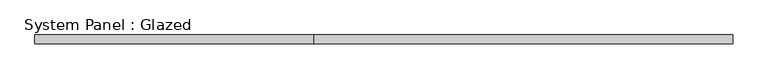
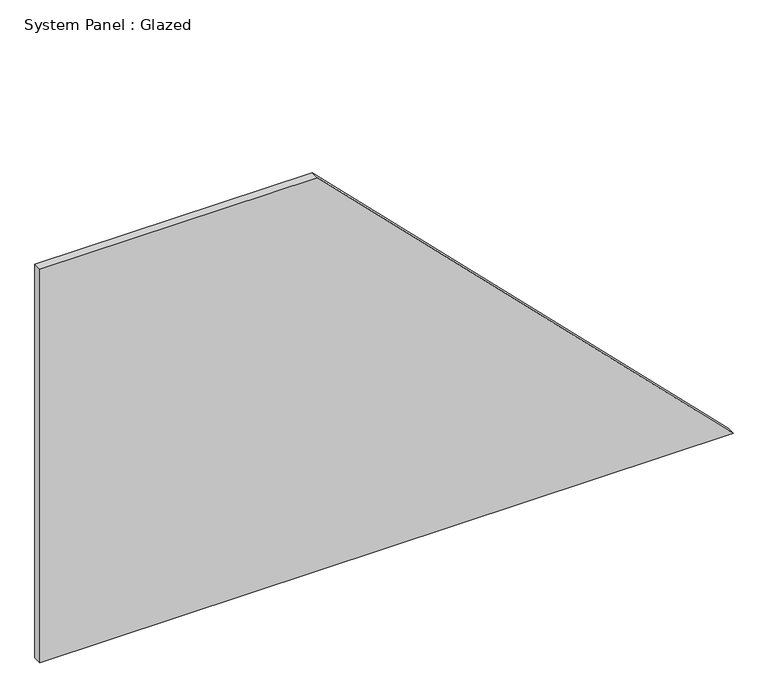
"""IFC4 building model written with IfcOpenShell, lengths in millimetres: plate geometry, System Panel : Glazed."""

import ifcopenshell
import ifcopenshell.guid

model = None  # the IFC model being written
_history = None  # IfcOwnerHistory: only IFC2X3 demands one
_inside = {}  # id of a spatial element -> (the spatial element, [elements in it])
_under = {}  # id of a project, library or spatial element -> (it, [spatial elements below it])
_declared = {}  # id of a project -> (the project, [libraries it declares])
_typed = {}  # id of a type object -> (the type object, [elements of that type])
_made_of = {}  # id of a material, layer set ... -> (it, [elements and type objects made of it])


def new_model(schema):
    """Start an empty IFC model of exactly this schema.

    Asked for "IFC4X3", IfcOpenShell would pick the latest addendum, in which some entities
    have other attributes; the version numbers below select the first issue.
    IFC2X3 requires an IfcOwnerHistory on every rooted entity: one is made here for all.
    """
    global model, _history
    if schema == "IFC4X3":
        model = ifcopenshell.file(schema_version=(4, 3, 0, 0))
    else:
        model = ifcopenshell.file(schema=schema)
    _inside.clear()
    _under.clear()
    _declared.clear()
    _typed.clear()
    _made_of.clear()
    _history = None
    if model.schema == "IFC2X3":
        org = make("IfcOrganization", Name="unknown")
        user = make(
            "IfcPersonAndOrganization",
            ThePerson=make("IfcPerson", FamilyName="unknown"),
            TheOrganization=org,
        )
        app = make(
            "IfcApplication",
            ApplicationDeveloper=org,
            Version="unknown",
            ApplicationFullName="unknown",
            ApplicationIdentifier="unknown",
        )
        _history = make(
            "IfcOwnerHistory",
            OwningUser=user,
            OwningApplication=app,
            ChangeAction="ADDED",
            CreationDate=0,
        )
    return model


def make(cls, **values):
    """One entity of the class cls with the attributes given. An attribute that is None is left unset."""
    return model.create_entity(
        cls, **{name: value for name, value in values.items() if value is not None}
    )


def rooted(cls, **values):
    """An entity with a GlobalId (a new one), such as an element, a storey or a relation."""
    return make(cls, GlobalId=ifcopenshell.guid.new(), OwnerHistory=_history, **values)


def si_unit(unit_type, name, prefix=None):
    """IfcSIUnit, for example si_unit("LENGTHUNIT", "METRE", prefix="MILLI")."""
    return make("IfcSIUnit", UnitType=unit_type, Prefix=prefix, Name=name)


def assignment(units):
    """IfcUnitAssignment: the units of a project."""
    return None if units is None else make("IfcUnitAssignment", Units=units)


def point(xyz):
    """IfcCartesianPoint."""
    return None if xyz is None else make("IfcCartesianPoint", Coordinates=xyz)


def direction(xyz):
    """IfcDirection."""
    return None if xyz is None else make("IfcDirection", DirectionRatios=xyz)


def frame(location, z_axis=None, x_axis=None):
    """IfcAxis2Placement3D, a coordinate frame: its origin and axes. An axis left out is left unset."""
    return make(
        "IfcAxis2Placement3D",
        Location=point(location),
        Axis=direction(z_axis),
        RefDirection=direction(x_axis),
    )


def origin():
    """The frame at (0, 0, 0) with its axes left unset."""
    return frame((0.0, 0.0, 0.0))


def place(relative_to, where):
    """IfcLocalPlacement: puts the frame where relative to a parent placement (None: the world)."""
    return make(
        "IfcLocalPlacement", PlacementRelTo=relative_to, RelativePlacement=where
    )


def context(
    kind, dimensions, precision=None, world=None, true_north=None, identifier=None
):
    """IfcGeometricRepresentationContext, for example the 3D "Model" context."""
    return make(
        "IfcGeometricRepresentationContext",
        ContextIdentifier=identifier,
        ContextType=kind,
        CoordinateSpaceDimension=dimensions,
        Precision=precision,
        WorldCoordinateSystem=world,
        TrueNorth=true_north,
    )


def project(units=None, contexts=None):
    """IfcProject with its units and contexts."""
    return rooted(
        "IfcProject",
        Name="project",
        RepresentationContexts=contexts,
        UnitsInContext=assignment(units),
    )


def spatial(cls, under=None, at=None, **own):
    """A site, building, storey or space (cls), placed at a placement, below another one or the project."""
    s = rooted(cls, ObjectPlacement=at, **own)
    if under is not None:
        _under.setdefault(under.id(), (under, []))[1].append(s)
    return s


def polyline(points):
    """IfcPolyline through the points."""
    return make("IfcPolyline", Points=[point(p) for p in points])


def outline(outer, holes=None, kind="AREA"):
    """IfcArbitraryClosedProfileDef: a profile drawn as a closed curve; with holes, ...WithVoids."""
    if holes is None:
        return make("IfcArbitraryClosedProfileDef", ProfileType=kind, OuterCurve=outer)
    return make(
        "IfcArbitraryProfileDefWithVoids",
        ProfileType=kind,
        OuterCurve=outer,
        InnerCurves=holes,
    )


def extrude(swept, where, along, depth):
    """IfcExtrudedAreaSolid: the profile swept, set in the frame where, extruded along a direction by depth."""
    return make(
        "IfcExtrudedAreaSolid",
        SweptArea=swept,
        Position=where,
        ExtrudedDirection=direction(along),
        Depth=depth,
    )


def shape(context_of_items, identifier, shape_type, items):
    """IfcShapeRepresentation: the items that make up one representation, for example the "Body"."""
    return make(
        "IfcShapeRepresentation",
        ContextOfItems=context_of_items,
        RepresentationIdentifier=identifier,
        RepresentationType=shape_type,
        Items=items,
    )


def source(mapping_origin, context_of_items, identifier, shape_type, items):
    """IfcRepresentationMap: a shape defined once, which mapped items show again and again."""
    return make(
        "IfcRepresentationMap",
        MappingOrigin=mapping_origin,
        MappedRepresentation=shape(context_of_items, identifier, shape_type, items),
    )


def transform(
    local_origin,
    x_axis=None,
    y_axis=None,
    z_axis=None,
    scale=None,
    scale2=None,
    scale3=None,
    uniform=True,
):
    """IfcCartesianTransformationOperator3D, or its non-uniform kind. x_axis, y_axis, z_axis: its Axis1, 2, 3."""
    if uniform:
        return make(
            "IfcCartesianTransformationOperator3D",
            Axis1=direction(x_axis),
            Axis2=direction(y_axis),
            LocalOrigin=point(local_origin),
            Scale=scale,
            Axis3=direction(z_axis),
        )
    return make(
        "IfcCartesianTransformationOperator3DnonUniform",
        Axis1=direction(x_axis),
        Axis2=direction(y_axis),
        LocalOrigin=point(local_origin),
        Scale=scale,
        Axis3=direction(z_axis),
        Scale2=scale2,
        Scale3=scale3,
    )


def mapped(mapping_source, mapping_target):
    """IfcMappedItem: shows the shape of a source again, moved by a transform."""
    return make(
        "IfcMappedItem", MappingSource=mapping_source, MappingTarget=mapping_target
    )


def made_of(thing, what):
    """Note that an element or type object is made of a material, layer set ...; save() writes the relation."""
    if what is not None:
        _made_of.setdefault(what.id(), (what, []))[1].append(thing)
    return thing


def element(
    cls,
    number,
    at=None,
    inside=None,
    cuts=None,
    type_object=None,
    material=None,
    context=None,
    identifier="Body",
    shape_type=None,
    held_by="IfcProductDefinitionShape",
    body=None,
    shapes=None,
    **own,
):
    """One element of the class cls, such as IfcWall. Its Tag is "e" and its number.

    at: its placement. inside: the storey or other place that contains it. cuts: it is an
    opening in that element (IfcRelVoidsElement). A single representation is given by context,
    identifier, shape_type and body (its items); several are given by shapes. held_by: the class
    of the entity that holds the representations. save() writes the other relations.
    """
    e = rooted(cls, Tag="e%d" % number, ObjectPlacement=at, **own)
    if body is not None:
        shapes = [shape(context, identifier, shape_type, body)]
    if shapes is not None:
        e.Representation = make(held_by, Representations=shapes)
    if inside is not None:
        _inside.setdefault(inside.id(), (inside, []))[1].append(e)
    if cuts is not None:
        rooted(
            "IfcRelVoidsElement", RelatingBuildingElement=cuts, RelatedOpeningElement=e
        )
    if type_object is not None:
        _typed.setdefault(type_object.id(), (type_object, []))[1].append(e)
    return made_of(e, material)


def aggregate(whole, parts):
    """IfcRelAggregates: a whole, such as a stair, and the parts it consists of."""
    return rooted("IfcRelAggregates", RelatingObject=whole, RelatedObjects=parts)


def save(model, path):
    """Write the relations noted so far, then the file.

    IfcRelAggregates (storeys below a building ...), IfcRelContainedInSpatialStructure (elements
    in a storey), IfcRelDefinesByType, IfcRelAssociatesMaterial and IfcRelDeclares: one each for
    every whole, place, type object, material and project.
    """
    for whole, parts in _under.values():
        aggregate(whole, parts)
    for where, things in _inside.values():
        rooted(
            "IfcRelContainedInSpatialStructure",
            RelatedElements=things,
            RelatingStructure=where,
        )
    for kind, things in _typed.values():
        rooted("IfcRelDefinesByType", RelatedObjects=things, RelatingType=kind)
    for what, things in _made_of.values():
        rooted("IfcRelAssociatesMaterial", RelatedObjects=things, RelatingMaterial=what)
    for by, libraries in _declared.values():
        rooted("IfcRelDeclares", RelatingContext=by, RelatedDefinitions=libraries)
    model.write(path)


def system_panel_glazed_44f6e10a(model_context):
    return source(origin(), model_context, "Body", "SweptSolid", [
        extrude(outline(polyline([(0.0, -1000.0), (0.0, 1000.0), (1200.0, -200.0), (1200.0, -1000.0), (0.0, -1000.0)])), frame((0.0, -49.5, 0.0), z_axis=(0.0, 1.0, 0.0), x_axis=(0.0, 0.0, 1.0)), (0.0, 0.0, 1.0), 25.0),
    ])


if __name__ == "__main__":
    model = new_model("IFC4")
    model_context = context("Model", 3, world=origin())
    ifc_project = project(units=[si_unit("LENGTHUNIT", "METRE", prefix="MILLI")], contexts=[model_context])
    site = spatial("IfcSite", under=ifc_project)
    building = spatial("IfcBuilding", under=site)
    placement = place(None, origin())
    system_panel_glazed_shape = system_panel_glazed_44f6e10a(model_context)
    element("IfcPlate", 1, ObjectType="System Panel : Glazed", at=placement, inside=building, context=model_context, shape_type="MappedRepresentation", body=[
        mapped(system_panel_glazed_shape, transform((0.0, 0.0, 0.0), x_axis=(1.0, 0.0, 0.0), y_axis=(0.0, 1.0, 0.0), z_axis=(0.0, 0.0, 1.0))),
    ])
    save(model, "model.ifc")
